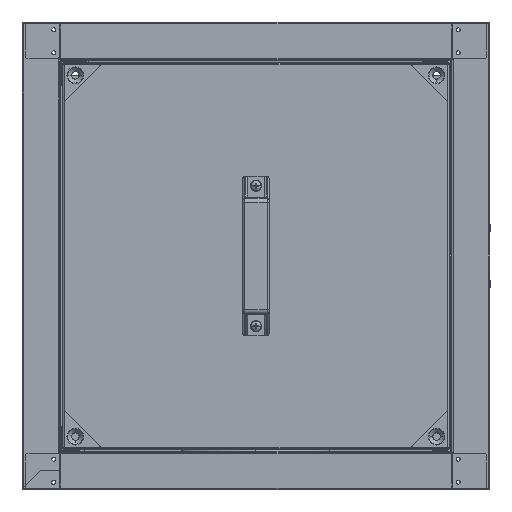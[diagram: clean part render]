
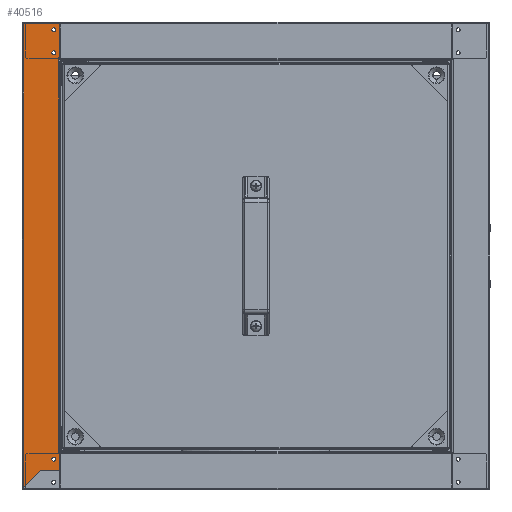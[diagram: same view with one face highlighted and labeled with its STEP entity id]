
A CAD part, left-side view. The second image highlights one B-rep face of the part: STEP entity #40516.
In plain terms, the highlighted planar face has unit normal (-1, 0, 0).
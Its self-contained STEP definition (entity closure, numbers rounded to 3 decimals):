
#190 = DIRECTION ( 'NONE',  ( 0., -1., 0. ) ) ;
#457 = VERTEX_POINT ( 'NONE', #14211 ) ;
#767 = EDGE_CURVE ( 'NONE', #40379, #15517, #33233, .T. ) ;
#1065 = CARTESIAN_POINT ( 'NONE',  ( -250., 210.7, 248.95 ) ) ;
#1945 = LINE ( 'NONE', #1065, #41170 ) ;
#2077 = VERTEX_POINT ( 'NONE', #33021 ) ;
#2630 = FACE_BOUND ( 'NONE', #2649, .T. ) ;
#2649 = EDGE_LOOP ( 'NONE', ( #30065, #9014 ) ) ;
#2849 = EDGE_CURVE ( 'NONE', #2077, #42253, #7492, .T. ) ;
#2955 = VECTOR ( 'NONE', #23298, 1000. ) ;
#3484 = CARTESIAN_POINT ( 'NONE',  ( -250., 250., 248.95 ) ) ;
#3597 = EDGE_CURVE ( 'NONE', #16657, #33792, #13281, .T. ) ;
#4381 = CIRCLE ( 'NONE', #32285, 2.1 ) ;
#4798 = DIRECTION ( 'NONE',  ( 0., 0., 1. ) ) ;
#4815 = VECTOR ( 'NONE', #24736, 1000. ) ;
#4872 = DIRECTION ( 'NONE',  ( 0., 0., -1. ) ) ;
#4999 = CARTESIAN_POINT ( 'NONE',  ( -250., 213.9, 217.2 ) ) ;
#5134 = DIRECTION ( 'NONE',  ( -1., 0., 0. ) ) ;
#5446 = CARTESIAN_POINT ( 'NONE',  ( -250., 210.2, 248. ) ) ;
#6035 = VECTOR ( 'NONE', #21934, 1000. ) ;
#6150 = CARTESIAN_POINT ( 'NONE',  ( -250., 210.2, 248. ) ) ;
#6185 = VECTOR ( 'NONE', #29258, 1000. ) ;
#7492 = LINE ( 'NONE', #44299, #27593 ) ;
#7849 = VECTOR ( 'NONE', #16672, 1000. ) ;
#7865 = CARTESIAN_POINT ( 'NONE',  ( -250., 216., 241.7 ) ) ;
#8399 = LINE ( 'NONE', #13144, #4815 ) ;
#8572 = ORIENTED_EDGE ( 'NONE', *, *, #30807, .F. ) ;
#9014 = ORIENTED_EDGE ( 'NONE', *, *, #47273, .F. ) ;
#10602 = ORIENTED_EDGE ( 'NONE', *, *, #42741, .T. ) ;
#11509 = VERTEX_POINT ( 'NONE', #12213 ) ;
#11652 = DIRECTION ( 'NONE',  ( 0., -1., 0. ) ) ;
#12129 = EDGE_CURVE ( 'NONE', #30924, #42253, #1945, .T. ) ;
#12213 = CARTESIAN_POINT ( 'NONE',  ( -250., 210.2, -229.1 ) ) ;
#12239 = CARTESIAN_POINT ( 'NONE',  ( -250., 210.2, -210.05 ) ) ;
#12265 = CARTESIAN_POINT ( 'NONE',  ( -250., 216., -217.2 ) ) ;
#12325 = VECTOR ( 'NONE', #4798, 1000. ) ;
#13144 = CARTESIAN_POINT ( 'NONE',  ( -250., 210.2, -229.1 ) ) ;
#13281 = CIRCLE ( 'NONE', #20516, 2.1 ) ;
#14211 = CARTESIAN_POINT ( 'NONE',  ( -250., 248., 248. ) ) ;
#15060 = FACE_BOUND ( 'NONE', #41342, .T. ) ;
#15219 = CIRCLE ( 'NONE', #34756, 2.1 ) ;
#15365 = ORIENTED_EDGE ( 'NONE', *, *, #20814, .F. ) ;
#15397 = CARTESIAN_POINT ( 'NONE',  ( -250., 216., 241.7 ) ) ;
#15517 = VERTEX_POINT ( 'NONE', #6150 ) ;
#15779 = EDGE_CURVE ( 'NONE', #11509, #2077, #22402, .T. ) ;
#15814 = EDGE_CURVE ( 'NONE', #46096, #41999, #31316, .T. ) ;
#16050 = DIRECTION ( 'NONE',  ( 0., -1., 0. ) ) ;
#16657 = VERTEX_POINT ( 'NONE', #37886 ) ;
#16672 = DIRECTION ( 'NONE',  ( 0., 1., 0. ) ) ;
#16888 = EDGE_CURVE ( 'NONE', #30924, #40379, #25252, .T. ) ;
#17688 = DIRECTION ( 'NONE',  ( 0., 1., 0. ) ) ;
#17895 = LINE ( 'NONE', #5446, #7849 ) ;
#19213 = DIRECTION ( 'NONE',  ( 0., -1., 0. ) ) ;
#20516 = AXIS2_PLACEMENT_3D ( 'NONE', #7865, #34409, #11652 ) ;
#20696 = CARTESIAN_POINT ( 'NONE',  ( -250., 210.7, 211.65 ) ) ;
#20703 = CARTESIAN_POINT ( 'NONE',  ( -250., 210.7, -210.05 ) ) ;
#20814 = EDGE_CURVE ( 'NONE', #37657, #35944, #26185, .T. ) ;
#21743 = DIRECTION ( 'NONE',  ( -1., 0., 0. ) ) ;
#21934 = DIRECTION ( 'NONE',  ( 0., 0.707, -0.707 ) ) ;
#22132 = CARTESIAN_POINT ( 'NONE',  ( -250., 213.9, -217.2 ) ) ;
#22395 = CARTESIAN_POINT ( 'NONE',  ( -250., 210.2, 211.65 ) ) ;
#22402 = LINE ( 'NONE', #12239, #12325 ) ;
#22410 = CIRCLE ( 'NONE', #41082, 2.1 ) ;
#22518 = DIRECTION ( 'NONE',  ( 0., 1., 0. ) ) ;
#22869 = DIRECTION ( 'NONE',  ( -1., 0., 0. ) ) ;
#23050 = ORIENTED_EDGE ( 'NONE', *, *, #44762, .T. ) ;
#23219 = CARTESIAN_POINT ( 'NONE',  ( -250., 218.1, 241.7 ) ) ;
#23298 = DIRECTION ( 'NONE',  ( 0., 0., 1. ) ) ;
#23491 = CARTESIAN_POINT ( 'NONE',  ( -250., 218.1, 217.2 ) ) ;
#23923 = EDGE_CURVE ( 'NONE', #41999, #46096, #15219, .T. ) ;
#23927 = ORIENTED_EDGE ( 'NONE', *, *, #15779, .T. ) ;
#24038 = VECTOR ( 'NONE', #43490, 1000. ) ;
#24713 = ORIENTED_EDGE ( 'NONE', *, *, #767, .T. ) ;
#24736 = DIRECTION ( 'NONE',  ( 0., -1., 0. ) ) ;
#25252 = LINE ( 'NONE', #20696, #24038 ) ;
#26185 = LINE ( 'NONE', #29586, #6035 ) ;
#26758 = VERTEX_POINT ( 'NONE', #4999 ) ;
#27280 = AXIS2_PLACEMENT_3D ( 'NONE', #45690, #22869, #190 ) ;
#27285 = VERTEX_POINT ( 'NONE', #23491 ) ;
#27317 = CARTESIAN_POINT ( 'NONE',  ( -250., 248., -247.35 ) ) ;
#27335 = CARTESIAN_POINT ( 'NONE',  ( -250., 210.7, 211.65 ) ) ;
#27593 = VECTOR ( 'NONE', #17688, 1000. ) ;
#27791 = CARTESIAN_POINT ( 'NONE',  ( -250., 216., -217.2 ) ) ;
#28021 = EDGE_CURVE ( 'NONE', #457, #35944, #37639, .T. ) ;
#29091 = ORIENTED_EDGE ( 'NONE', *, *, #2849, .T. ) ;
#29161 = CARTESIAN_POINT ( 'NONE',  ( -250., 210.2, 211.65 ) ) ;
#29258 = DIRECTION ( 'NONE',  ( 0., 0., -1. ) ) ;
#29586 = CARTESIAN_POINT ( 'NONE',  ( -250., 249.1, -248.45 ) ) ;
#30065 = ORIENTED_EDGE ( 'NONE', *, *, #3597, .F. ) ;
#30807 = EDGE_CURVE ( 'NONE', #27285, #26758, #32365, .T. ) ;
#30924 = VERTEX_POINT ( 'NONE', #27335 ) ;
#31316 = CIRCLE ( 'NONE', #32553, 2.1 ) ;
#31648 = DIRECTION ( 'NONE',  ( 0., -1., 0. ) ) ;
#31741 = ORIENTED_EDGE ( 'NONE', *, *, #15814, .F. ) ;
#32285 = AXIS2_PLACEMENT_3D ( 'NONE', #44554, #21743, #48373 ) ;
#32365 = CIRCLE ( 'NONE', #27280, 2.1 ) ;
#32553 = AXIS2_PLACEMENT_3D ( 'NONE', #27791, #5134, #31648 ) ;
#32916 = FACE_OUTER_BOUND ( 'NONE', #41267, .T. ) ;
#32952 = CARTESIAN_POINT ( 'NONE',  ( -250., 248., 248.95 ) ) ;
#33021 = CARTESIAN_POINT ( 'NONE',  ( -250., 210.2, -210.05 ) ) ;
#33233 = LINE ( 'NONE', #22395, #2955 ) ;
#33686 = ORIENTED_EDGE ( 'NONE', *, *, #12129, .F. ) ;
#33732 = CARTESIAN_POINT ( 'NONE',  ( -250., 229.75, -229.1 ) ) ;
#33792 = VERTEX_POINT ( 'NONE', #23219 ) ;
#33854 = PLANE ( 'NONE',  #45285 ) ;
#34409 = DIRECTION ( 'NONE',  ( -1., 0., 0. ) ) ;
#34756 = AXIS2_PLACEMENT_3D ( 'NONE', #12265, #38839, #16050 ) ;
#35359 = ORIENTED_EDGE ( 'NONE', *, *, #43425, .F. ) ;
#35944 = VERTEX_POINT ( 'NONE', #27317 ) ;
#37639 = LINE ( 'NONE', #32952, #6185 ) ;
#37657 = VERTEX_POINT ( 'NONE', #33732 ) ;
#37886 = CARTESIAN_POINT ( 'NONE',  ( -250., 213.9, 241.7 ) ) ;
#38839 = DIRECTION ( 'NONE',  ( -1., 0., 0. ) ) ;
#39067 = ORIENTED_EDGE ( 'NONE', *, *, #23923, .F. ) ;
#40379 = VERTEX_POINT ( 'NONE', #29161 ) ;
#40516 = ADVANCED_FACE ( 'NONE', ( #15060, #43023, #2630, #32916 ), #33854, .F. ) ;
#40895 = CARTESIAN_POINT ( 'NONE',  ( -250., 218.1, -217.2 ) ) ;
#41082 = AXIS2_PLACEMENT_3D ( 'NONE', #15397, #42015, #19213 ) ;
#41170 = VECTOR ( 'NONE', #4872, 1000. ) ;
#41213 = EDGE_LOOP ( 'NONE', ( #35359, #8572 ) ) ;
#41267 = EDGE_LOOP ( 'NONE', ( #10602, #43440, #15365, #23050, #23927, #29091, #33686, #48473, #24713 ) ) ;
#41342 = EDGE_LOOP ( 'NONE', ( #31741, #39067 ) ) ;
#41999 = VERTEX_POINT ( 'NONE', #40895 ) ;
#42015 = DIRECTION ( 'NONE',  ( -1., 0., 0. ) ) ;
#42253 = VERTEX_POINT ( 'NONE', #20703 ) ;
#42741 = EDGE_CURVE ( 'NONE', #15517, #457, #17895, .T. ) ;
#43023 = FACE_BOUND ( 'NONE', #41213, .T. ) ;
#43425 = EDGE_CURVE ( 'NONE', #26758, #27285, #4381, .T. ) ;
#43440 = ORIENTED_EDGE ( 'NONE', *, *, #28021, .T. ) ;
#43490 = DIRECTION ( 'NONE',  ( 0., -1., 0. ) ) ;
#44299 = CARTESIAN_POINT ( 'NONE',  ( -250., 210.7, -210.05 ) ) ;
#44554 = CARTESIAN_POINT ( 'NONE',  ( -250., 216., 217.2 ) ) ;
#44762 = EDGE_CURVE ( 'NONE', #37657, #11509, #8399, .T. ) ;
#45285 = AXIS2_PLACEMENT_3D ( 'NONE', #3484, #45317, #22518 ) ;
#45317 = DIRECTION ( 'NONE',  ( 1., 0., 0. ) ) ;
#45690 = CARTESIAN_POINT ( 'NONE',  ( -250., 216., 217.2 ) ) ;
#46096 = VERTEX_POINT ( 'NONE', #22132 ) ;
#47273 = EDGE_CURVE ( 'NONE', #33792, #16657, #22410, .T. ) ;
#48373 = DIRECTION ( 'NONE',  ( 0., -1., 0. ) ) ;
#48473 = ORIENTED_EDGE ( 'NONE', *, *, #16888, .T. ) ;
